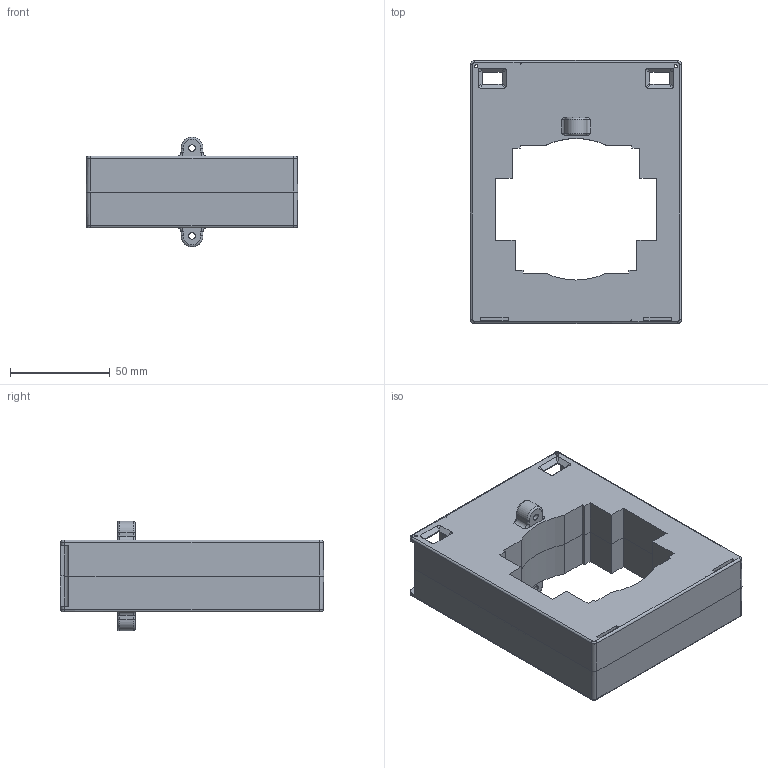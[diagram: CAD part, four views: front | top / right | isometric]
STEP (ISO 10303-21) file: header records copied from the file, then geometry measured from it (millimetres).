
FILE_DESCRIPTION(/* description */ (''),/* implementation_level */ '2;1');
FILE_NAME(/* name */ 'PS80.stp',/* time_stamp */ '2025-11-04T13:57:40+08:00',/* author */ (''),/* organization */ (''),/* preprocessor_version */ 'ST-DEVELOPER v18.102',/* originating_system */ 'SIEMENS PLM Software NX2206.1700',/* authorisation */ '');
FILE_SCHEMA (('AUTOMOTIVE_DESIGN { 1 0 10303 214 3 1 1 1 }'));
Length unit declared in the file: millimetre
Products named in the file (1): PS80_objects
Bounding box: 106 x 132 x 55 mm (x, y, z)
Volume: 96014.8 mm3; surface area: 93438.9 mm2
Topology: 2 solids, 2 shells, 576 faces, 1654 edges, 1088 vertices
Faces by surface type: plane 464, cylinder 74, torus 22, bspline 16
Full cylindrical faces by diameter (mm): 1.5 x4, 1.7 x4, 3.3 x2, 4.2 x2
Entity records: 19599 total; most frequent: CARTESIAN_POINT 4760, ORIENTED_EDGE 3244, DIRECTION 2698, EDGE_CURVE 1622, LINE 1322, VECTOR 1322, VERTEX_POINT 1084, AXIS2_PLACEMENT_3D 688
